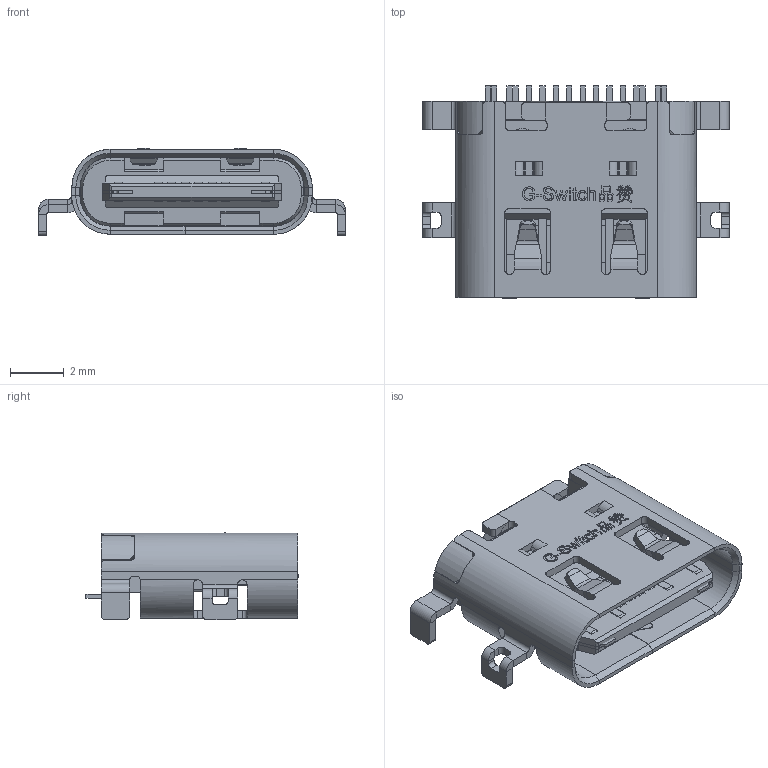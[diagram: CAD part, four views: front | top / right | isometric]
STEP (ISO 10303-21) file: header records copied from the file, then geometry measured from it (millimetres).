
FILE_DESCRIPTION (( 'STEP AP203' ), '1' );
FILE_NAME ('GT-USB-7014AB.STEP', '2023-04-19T07:26:05', ( '' ), ( '' ), 'SwSTEP 2.0', 'SolidWorks 2023', '' );
FILE_SCHEMA (( 'CONFIG_CONTROL_DESIGN' ));
Length unit declared in the file: millimetre
Products named in the file (1): GT-USB-7014AB
Bounding box: 11.4 x 7.89 x 3.24 mm (x, y, z)
Surface area: 1659.5 mm2 (no closed solid volume)
Topology: 0 solids, 44 shells, 3354 faces, 9362 edges, 5978 vertices
Faces by surface type: plane 2337, cylinder 863, bspline 86, cone 68
Entity records: 119243 total; most frequent: CARTESIAN_POINT 47488, ORIENTED_EDGE 18628, EDGE_CURVE 9362, DIRECTION 9183, B_SPLINE_CURVE_WITH_KNOTS 7161, VERTEX_POINT 5978, AXIS2_PLACEMENT_3D 3713, EDGE_LOOP 3470
